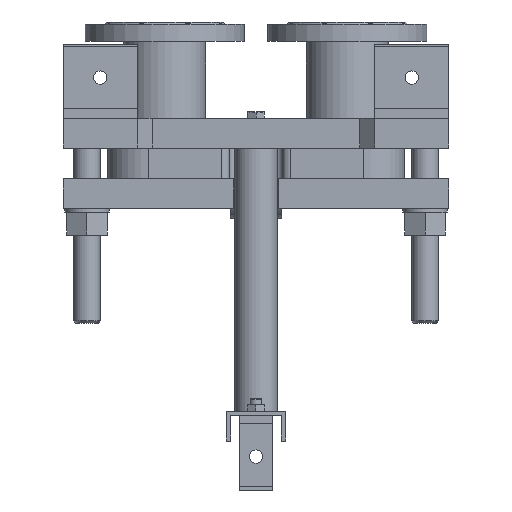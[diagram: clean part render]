
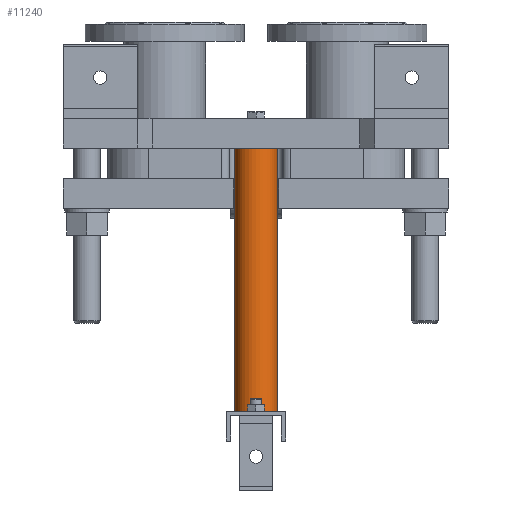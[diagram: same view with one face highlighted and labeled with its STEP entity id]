
A CAD part, front view. The second image highlights one B-rep face of the part: STEP entity #11240.
In plain terms, the highlighted cylindrical face has radius 28.5 mm (diameter 57 mm), a full revolution.
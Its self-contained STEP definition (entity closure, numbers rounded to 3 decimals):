
#781=LINE('',#22043,#1754);
#1754=VECTOR('',#14569,28.5);
#2333=CYLINDRICAL_SURFACE('',#12263,28.5);
#2995=FACE_OUTER_BOUND('',#3777,.T.);
#3777=EDGE_LOOP('',(#9013,#9014,#9015,#9016));
#4462=CIRCLE('',#12264,28.5);
#4463=CIRCLE('',#12265,28.5);
#5286=VERTEX_POINT('',#22040);
#5287=VERTEX_POINT('',#22042);
#6596=EDGE_CURVE('',#5286,#5286,#4462,.T.);
#6597=EDGE_CURVE('',#5286,#5287,#781,.T.);
#6598=EDGE_CURVE('',#5287,#5287,#4463,.T.);
#9013=ORIENTED_EDGE('',*,*,#6596,.F.);
#9014=ORIENTED_EDGE('',*,*,#6597,.T.);
#9015=ORIENTED_EDGE('',*,*,#6598,.T.);
#9016=ORIENTED_EDGE('',*,*,#6597,.F.);
#11240=ADVANCED_FACE('',(#2995),#2333,.T.);
#12263=AXIS2_PLACEMENT_3D('',#22039,#14565,#14566);
#12264=AXIS2_PLACEMENT_3D('',#22041,#14567,#14568);
#12265=AXIS2_PLACEMENT_3D('',#22044,#14570,#14571);
#14565=DIRECTION('center_axis',(0.,0.,
-1.));
#14566=DIRECTION('ref_axis',(-1.,0.,0.));
#14567=DIRECTION('center_axis',(0.,0.,
-1.));
#14568=DIRECTION('ref_axis',(-1.,0.,0.));
#14569=DIRECTION('',(0.,0.,1.));
#14570=DIRECTION('center_axis',(0.,0.,
-1.));
#14571=DIRECTION('ref_axis',(-1.,0.,0.));
#22039=CARTESIAN_POINT('Origin',(0.,215.,0.));
#22040=CARTESIAN_POINT('',(28.5,215.,-355.));
#22041=CARTESIAN_POINT('Origin',(0.,215.,-355.));
#22042=CARTESIAN_POINT('',(28.5,215.,0.));
#22043=CARTESIAN_POINT('',(28.5,215.,0.));
#22044=CARTESIAN_POINT('Origin',(0.,215.,0.));
